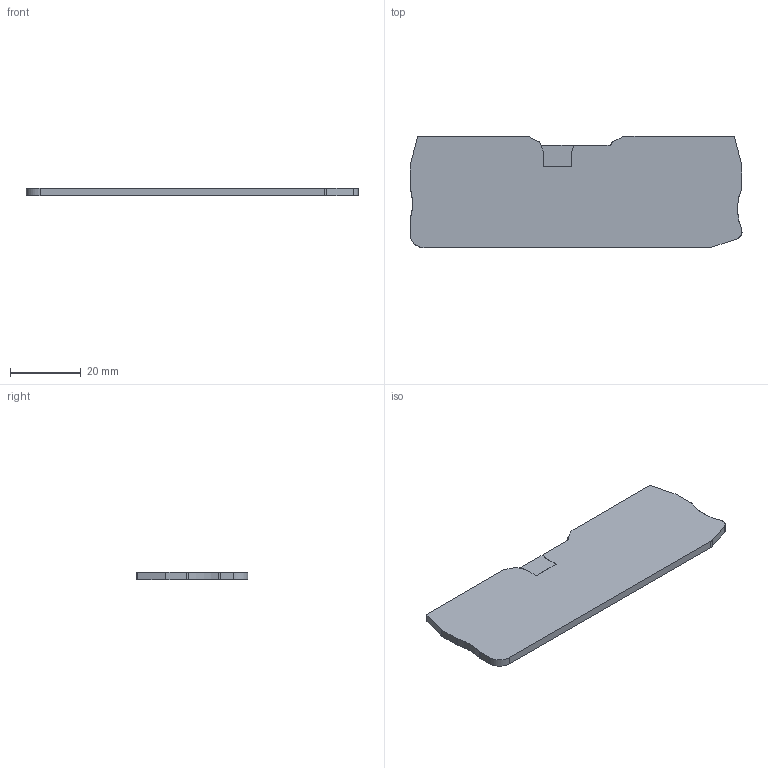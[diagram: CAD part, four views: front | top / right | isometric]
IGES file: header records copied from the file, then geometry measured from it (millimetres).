
Global section: file name: 3205174_d_qtc15quattro-select.igs; native system: OneSpace Designer 3D IGES; preprocessor: 11.50A  18-Jul-2002; date: 20040210.082748; units: millimetre
Bounding box: 94 x 31.55 x 2.2 mm (x, y, z)
Surface area: 6265.5 mm2 (no closed solid volume)
Topology: 0 solids, 0 shells, 45 faces, 330 edges, 330 vertices
Faces by surface type: bspline 45
